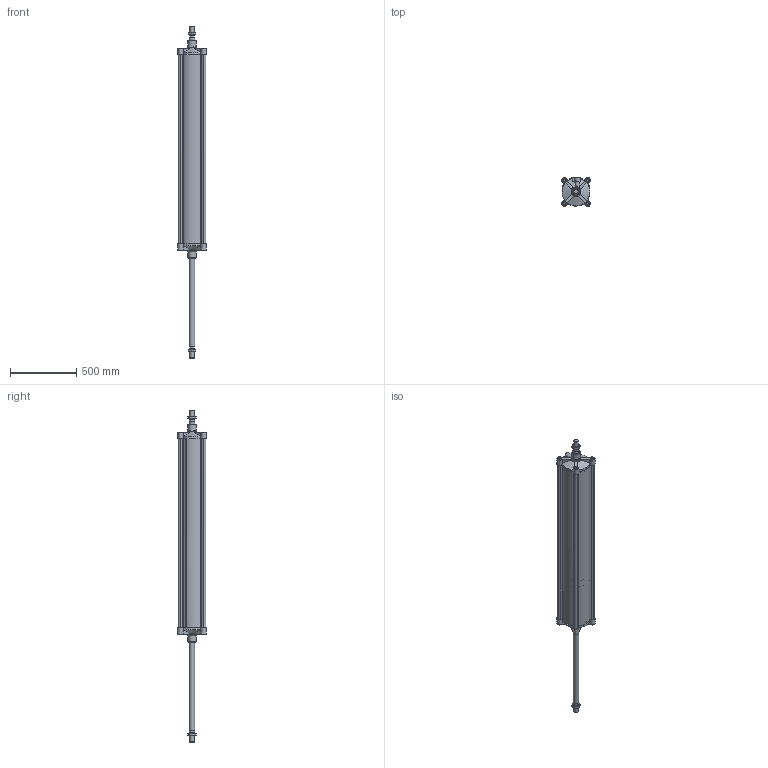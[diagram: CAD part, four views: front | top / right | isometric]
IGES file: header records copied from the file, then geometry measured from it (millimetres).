
Global section: file name: 139#_200_1000_02; native system: Autodesk Inventor 2014; preprocessor: unknown; author: F. Piloni; organization: Pneumax S.p.A.; date: 20151120.143129; units: millimetre
Bounding box: 216 x 216 x 2514 mm (x, y, z)
Volume: 16280857.6 mm3; surface area: 3584848.7 mm2
Topology: 6 solids, 6 shells, 324 faces, 844 edges, 567 vertices
Faces by surface type: bspline 324
